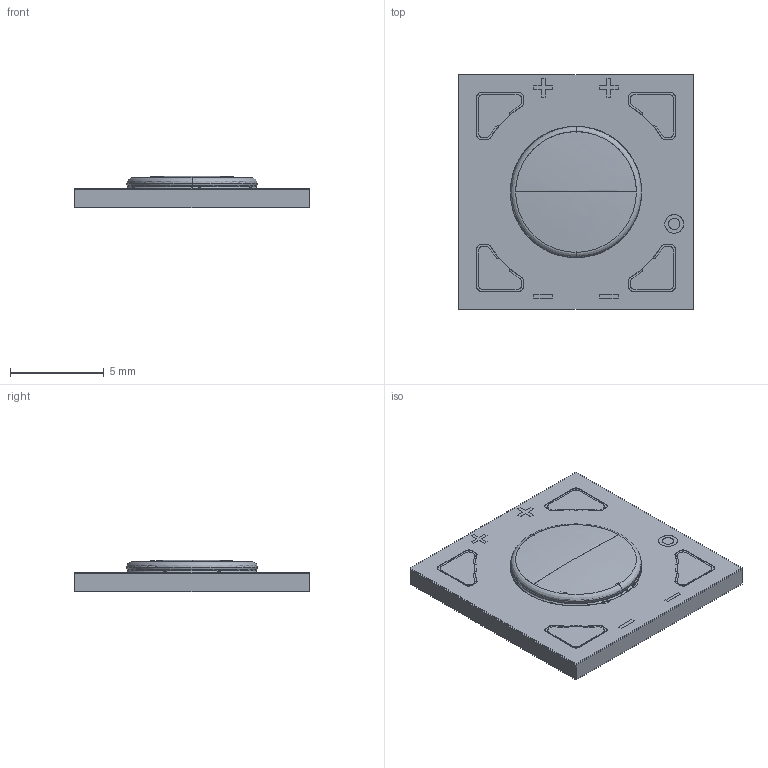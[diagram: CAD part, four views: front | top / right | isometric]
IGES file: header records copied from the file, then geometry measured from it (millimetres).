
Start section: SolidWorks IGES file using analytic representation for surfaces
Global section: file name: C:\Users\michaelsolomensky\Documents\MSdesign\Projects\800 Sub\marketing\V6 BXRE.IGS; native system: SolidWorks 2013; preprocessor: SolidWorks 2013; author: michaelsolomensky; date: 131114.091221; units: millimetre
Bounding box: 12.5 x 12.5 x 1.7 mm (x, y, z)
Surface area: 755.1 mm2 (no closed solid volume)
Topology: 0 solids, 0 shells, 214 faces, 1848 edges, 1847 vertices
Faces by surface type: bspline 120, revolution 94
